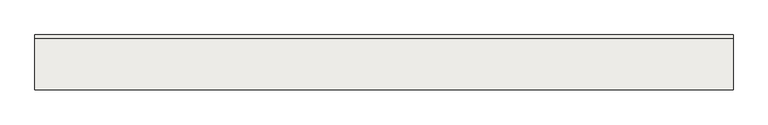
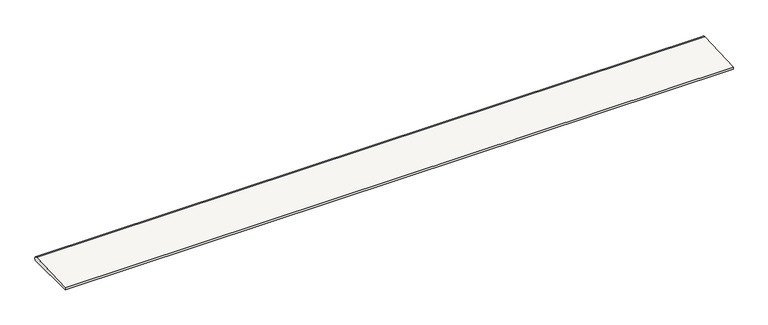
"""IFC4 building model written with IfcOpenShell, lengths in millimetres: slab geometry, ROSA GRES_S62 : Pieza S62_Serena_Griggio_Anti-Slip."""

from ifc_helpers import new_model, si_unit, point, frame, frame_2d, origin, place, context, project, spatial, polyline, circle_curve, trimmed, segment, composite_curve, outline, extrude, source, transform, mapped, element, save


def slab_b75b5d20(model_context):
    return source(origin(), model_context, "Body", "SweptSolid", [
        extrude(outline(composite_curve([segment(trimmed(circle_curve(frame_2d((-13.9724374, 9.2919904)), 16.7800504), [point((-14.738484, 26.0545458))], [point((0.0, 0.0))], False, "CARTESIAN"), True, "CONTINUOUS"), segment(polyline([(0.0, 0.0), (-306.6389713, 0.0), (-306.6389713, 12.0), (-14.738484, 26.0545458)]), True, "CONTINUOUS")], self_intersect=False)), frame((0.0, 0.0, 0.0), z_axis=(1.0, 0.0, 0.0), x_axis=(0.0, 1.0, 0.0)), (0.0, 0.0, 1.0), 3942.5947907),
    ])


if __name__ == "__main__":
    model = new_model("IFC4")
    model_context = context("Model", 3, world=origin())
    ifc_project = project(units=[si_unit("LENGTHUNIT", "METRE", prefix="MILLI")], contexts=[model_context])
    site = spatial("IfcSite", under=ifc_project)
    building = spatial("IfcBuilding", under=site)
    placement = place(None, origin())
    slab_shape = slab_b75b5d20(model_context)
    element("IfcSlab", 1, ObjectType="ROSA GRES_S62 : Pieza S62_Serena_Griggio_Anti-Slip", at=placement, inside=building, context=model_context, shape_type="MappedRepresentation", body=[
        mapped(slab_shape, transform((0.0, 0.0, 0.0), x_axis=(1.0, 0.0, 0.0), y_axis=(0.0, 1.0, 0.0), z_axis=(0.0, 0.0, 1.0))),
    ])
    save(model, "model.ifc")
